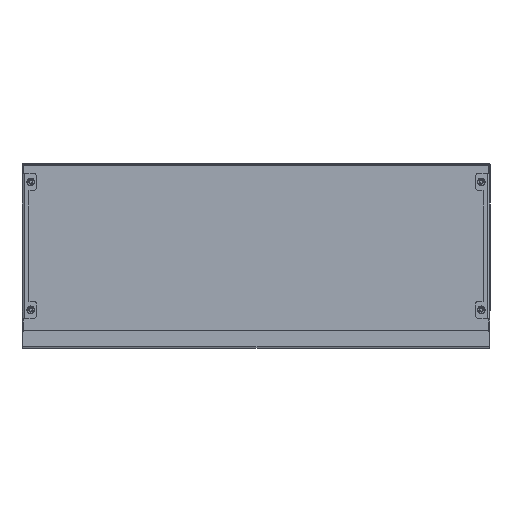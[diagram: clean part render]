
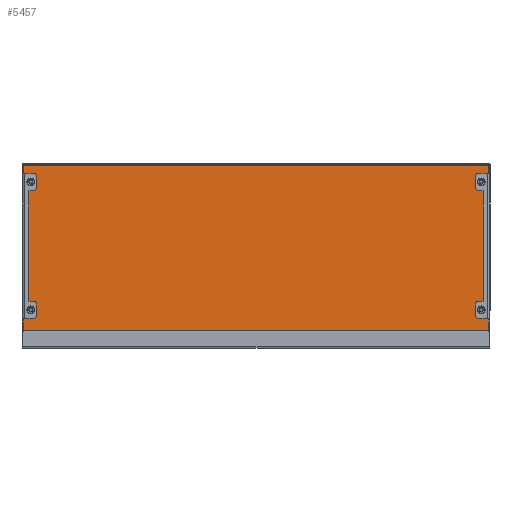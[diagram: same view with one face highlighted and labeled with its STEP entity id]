
A CAD part, front view. The second image highlights one B-rep face of the part: STEP entity #5457.
In plain terms, the highlighted planar face has unit normal (0, -1, 0).
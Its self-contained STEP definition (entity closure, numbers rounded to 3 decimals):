
#42 = EDGE_CURVE ( 'NONE', #4848, #1952, #1373, .T. ) ;
#153 = ORIENTED_EDGE ( 'NONE', *, *, #6500, .F. ) ;
#222 = DIRECTION ( 'NONE',  ( 0., 0., 1. ) ) ;
#281 = EDGE_LOOP ( 'NONE', ( #5256, #4331, #6094, #153, #3459, #2985, #7932, #5089, #3216, #8277, #7468 ) ) ;
#404 = DIRECTION ( 'NONE',  ( 0., 1., 0. ) ) ;
#672 = VERTEX_POINT ( 'NONE', #9908 ) ;
#756 = EDGE_CURVE ( 'NONE', #7381, #3056, #1324, .T. ) ;
#1025 = AXIS2_PLACEMENT_3D ( 'NONE', #8772, #6858, #8669 ) ;
#1133 = EDGE_CURVE ( 'NONE', #7537, #6162, #7438, .T. ) ;
#1197 = EDGE_CURVE ( 'NONE', #672, #7537, #7285, .T. ) ;
#1324 = LINE ( 'NONE', #2024, #9368 ) ;
#1365 = VECTOR ( 'NONE', #6376, 1000. ) ;
#1373 = CIRCLE ( 'NONE', #7446, 0.6 ) ;
#1421 = DIRECTION ( 'NONE',  ( 0., 0., -1. ) ) ;
#1668 = CARTESIAN_POINT ( 'NONE',  ( 399.524, -1.5, 143.524 ) ) ;
#1858 = PLANE ( 'NONE',  #7110 ) ;
#1868 = VECTOR ( 'NONE', #3367, 1000. ) ;
#1928 = DIRECTION ( 'NONE',  ( 0., 0., 1. ) ) ;
#1938 = VERTEX_POINT ( 'NONE', #4696 ) ;
#1952 = VERTEX_POINT ( 'NONE', #7200 ) ;
#2024 = CARTESIAN_POINT ( 'NONE',  ( 399.5, -1.5, 0. ) ) ;
#2281 = DIRECTION ( 'NONE',  ( 0., -1., 0. ) ) ;
#2418 = CARTESIAN_POINT ( 'NONE',  ( -399.5, -1.5, -146.757 ) ) ;
#2551 = VERTEX_POINT ( 'NONE', #5686 ) ;
#2581 = DIRECTION ( 'NONE',  ( 0., 1., 0. ) ) ;
#2985 = ORIENTED_EDGE ( 'NONE', *, *, #4490, .T. ) ;
#2992 = CIRCLE ( 'NONE', #10682, 0.6 ) ;
#3056 = VERTEX_POINT ( 'NONE', #10616 ) ;
#3214 = CARTESIAN_POINT ( 'NONE',  ( 399.5, -1.5, 143.5 ) ) ;
#3216 = ORIENTED_EDGE ( 'NONE', *, *, #3515, .F. ) ;
#3320 = CARTESIAN_POINT ( 'NONE',  ( 398.925, -1.5, 143.5 ) ) ;
#3367 = DIRECTION ( 'NONE',  ( -1., 0., 0. ) ) ;
#3459 = ORIENTED_EDGE ( 'NONE', *, *, #10356, .F. ) ;
#3515 = EDGE_CURVE ( 'NONE', #6162, #1952, #4204, .T. ) ;
#3641 = DIRECTION ( 'NONE',  ( 0., 0., 1. ) ) ;
#4046 = CARTESIAN_POINT ( 'NONE',  ( 399.5, -1.5, -143.821 ) ) ;
#4077 = CARTESIAN_POINT ( 'NONE',  ( -398.925, -1.5, 143.5 ) ) ;
#4204 = LINE ( 'NONE', #2418, #4960 ) ;
#4331 = ORIENTED_EDGE ( 'NONE', *, *, #756, .T. ) ;
#4380 = LINE ( 'NONE', #5304, #7758 ) ;
#4447 = FACE_OUTER_BOUND ( 'NONE', #281, .T. ) ;
#4490 = EDGE_CURVE ( 'NONE', #2551, #5354, #2992, .T. ) ;
#4696 = CARTESIAN_POINT ( 'NONE',  ( 399.1, -1.5, -144.845 ) ) ;
#4799 = CARTESIAN_POINT ( 'NONE',  ( -399.1, -1.5, -145.057 ) ) ;
#4848 = VERTEX_POINT ( 'NONE', #4077 ) ;
#4960 = VECTOR ( 'NONE', #5730, 1000. ) ;
#5089 = ORIENTED_EDGE ( 'NONE', *, *, #42, .T. ) ;
#5256 = ORIENTED_EDGE ( 'NONE', *, *, #9308, .F. ) ;
#5304 = CARTESIAN_POINT ( 'NONE',  ( 402.5, -1.5, -145.257 ) ) ;
#5327 = VECTOR ( 'NONE', #6196, 1000. ) ;
#5339 = CARTESIAN_POINT ( 'NONE',  ( -399.524, -1.5, 143.524 ) ) ;
#5354 = VERTEX_POINT ( 'NONE', #3320 ) ;
#5457 = ADVANCED_FACE ( 'NONE', ( #4447 ), #1858, .F. ) ;
#5560 = LINE ( 'NONE', #3214, #1365 ) ;
#5686 = CARTESIAN_POINT ( 'NONE',  ( 399.5, -1.5, 142.925 ) ) ;
#5730 = DIRECTION ( 'NONE',  ( 0., 0., 1. ) ) ;
#5755 = LINE ( 'NONE', #8164, #1868 ) ;
#6094 = ORIENTED_EDGE ( 'NONE', *, *, #9963, .F. ) ;
#6162 = VERTEX_POINT ( 'NONE', #8841 ) ;
#6196 = DIRECTION ( 'NONE',  ( 0.707, 0., -0.707 ) ) ;
#6304 = LINE ( 'NONE', #9655, #5327 ) ;
#6352 = DIRECTION ( 'NONE',  ( 0.707, 0., 0.707 ) ) ;
#6376 = DIRECTION ( 'NONE',  ( 0., 0., -1. ) ) ;
#6500 = EDGE_CURVE ( 'NONE', #8232, #1938, #8566, .T. ) ;
#6858 = DIRECTION ( 'NONE',  ( 0., -1., 0. ) ) ;
#7110 = AXIS2_PLACEMENT_3D ( 'NONE', #7785, #404, #3641 ) ;
#7200 = CARTESIAN_POINT ( 'NONE',  ( -399.5, -1.5, 142.925 ) ) ;
#7285 = LINE ( 'NONE', #7951, #10078 ) ;
#7381 = VERTEX_POINT ( 'NONE', #10242 ) ;
#7438 = CIRCLE ( 'NONE', #1025, 0.75 ) ;
#7446 = AXIS2_PLACEMENT_3D ( 'NONE', #5339, #8681, #10374 ) ;
#7468 = ORIENTED_EDGE ( 'NONE', *, *, #1197, .F. ) ;
#7537 = VERTEX_POINT ( 'NONE', #4799 ) ;
#7758 = VECTOR ( 'NONE', #8545, 1000. ) ;
#7785 = CARTESIAN_POINT ( 'NONE',  ( 402.5, -1.5, 146.5 ) ) ;
#7883 = EDGE_CURVE ( 'NONE', #5354, #4848, #5755, .T. ) ;
#7932 = ORIENTED_EDGE ( 'NONE', *, *, #7883, .T. ) ;
#7951 = CARTESIAN_POINT ( 'NONE',  ( -127.021, -1.5, 127.021 ) ) ;
#8164 = CARTESIAN_POINT ( 'NONE',  ( 402.5, -1.5, 143.5 ) ) ;
#8232 = VERTEX_POINT ( 'NONE', #4046 ) ;
#8277 = ORIENTED_EDGE ( 'NONE', *, *, #1133, .F. ) ;
#8545 = DIRECTION ( 'NONE',  ( -1., 0., 0. ) ) ;
#8566 = CIRCLE ( 'NONE', #9966, 0.6 ) ;
#8669 = DIRECTION ( 'NONE',  ( 0., 0., -1. ) ) ;
#8681 = DIRECTION ( 'NONE',  ( 0., 1., 0. ) ) ;
#8772 = CARTESIAN_POINT ( 'NONE',  ( -399.63, -1.5, -144.527 ) ) ;
#8841 = CARTESIAN_POINT ( 'NONE',  ( -399.5, -1.5, -143.788 ) ) ;
#8933 = CARTESIAN_POINT ( 'NONE',  ( 399.524, -1.5, -144.421 ) ) ;
#9308 = EDGE_CURVE ( 'NONE', #7381, #672, #4380, .T. ) ;
#9368 = VECTOR ( 'NONE', #1928, 1000. ) ;
#9655 = CARTESIAN_POINT ( 'NONE',  ( 127.127, -1.5, 127.127 ) ) ;
#9908 = CARTESIAN_POINT ( 'NONE',  ( -399.3, -1.5, -145.257 ) ) ;
#9963 = EDGE_CURVE ( 'NONE', #1938, #3056, #6304, .T. ) ;
#9966 = AXIS2_PLACEMENT_3D ( 'NONE', #8933, #2281, #1421 ) ;
#10078 = VECTOR ( 'NONE', #6352, 1000. ) ;
#10242 = CARTESIAN_POINT ( 'NONE',  ( 399.5, -1.5, -145.257 ) ) ;
#10356 = EDGE_CURVE ( 'NONE', #2551, #8232, #5560, .T. ) ;
#10374 = DIRECTION ( 'NONE',  ( 0., 0., 1. ) ) ;
#10616 = CARTESIAN_POINT ( 'NONE',  ( 399.5, -1.5, -145.245 ) ) ;
#10682 = AXIS2_PLACEMENT_3D ( 'NONE', #1668, #2581, #222 ) ;
